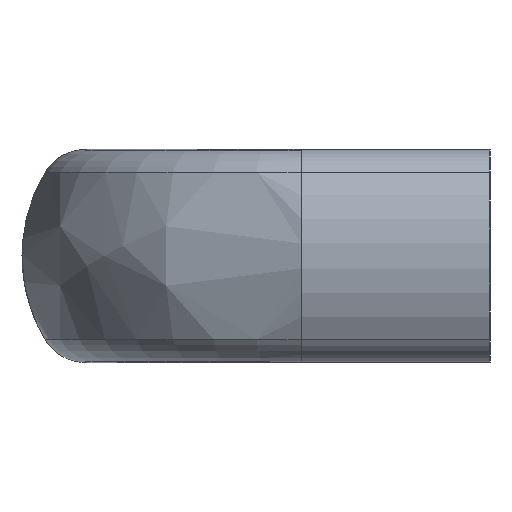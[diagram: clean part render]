
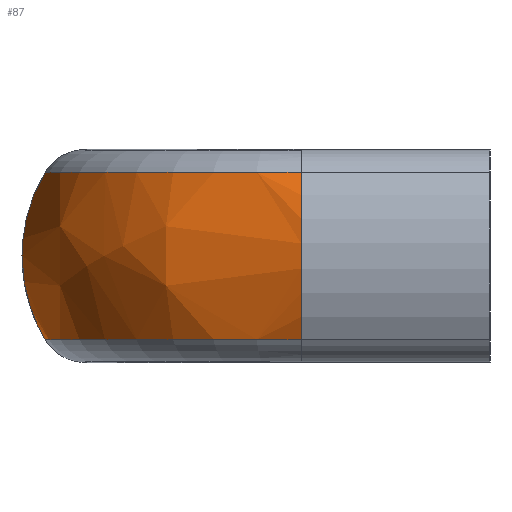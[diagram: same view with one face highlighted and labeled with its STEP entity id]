
A CAD part, left-side view. The second image highlights one B-rep face of the part: STEP entity #87.
In plain terms, the highlighted free-form (B-spline) face has degree [3, 3] with [4, 4] control points.
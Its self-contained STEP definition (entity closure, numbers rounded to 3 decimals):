
#87 = ADVANCED_FACE( '', ( #155 ), #156, .T. );
#155 = FACE_OUTER_BOUND( '', #265, .T. );
#156 = ( BOUNDED_SURFACE(  )B_SPLINE_SURFACE( 3, 3, ( ( #268, #269, #270, #271 ), ( #272, #273, #274, #275 ), ( #276, #277, #278, #279 ), ( #280, #281, #282, #283 ) ), .UNSPECIFIED., .F., .F., .F. )B_SPLINE_SURFACE_WITH_KNOTS( ( 4, 4 ), ( 4, 4 ), ( 1.571, 3.142 ), ( -0.537, 0.537 ), .UNSPECIFIED. )GEOMETRIC_REPRESENTATION_ITEM(  )RATIONAL_B_SPLINE_SURFACE( ( ( 1., 0.805, 0.805, 1. ), ( 0.906, 0.729, 0.729, 0.906 ), ( 0.906, 0.729, 0.729, 0.906 ), ( 1., 0.805, 0.805, 1. ) ) )REPRESENTATION_ITEM( '' )SURFACE(  ) );
#265 = EDGE_LOOP( '', ( #477, #478, #479, #480, #481 ) );
#268 = CARTESIAN_POINT( '', ( -124.5, 54.189, 10.177 ) );
#269 = CARTESIAN_POINT( '', ( -142.77, 54.189, 10.177 ) );
#270 = CARTESIAN_POINT( '', ( -155.689, 41.27, 10.177 ) );
#271 = CARTESIAN_POINT( '', ( -155.689, 23., 10.177 ) );
#272 = CARTESIAN_POINT( '', ( -124.5, 58.02, 3.744 ) );
#273 = CARTESIAN_POINT( '', ( -145.014, 58.02, 3.744 ) );
#274 = CARTESIAN_POINT( '', ( -159.52, 43.514, 3.744 ) );
#275 = CARTESIAN_POINT( '', ( -159.52, 23., 3.744 ) );
#276 = CARTESIAN_POINT( '', ( -124.5, 58.02, -3.744 ) );
#277 = CARTESIAN_POINT( '', ( -145.014, 58.02, -3.744 ) );
#278 = CARTESIAN_POINT( '', ( -159.52, 43.514, -3.744 ) );
#279 = CARTESIAN_POINT( '', ( -159.52, 23., -3.744 ) );
#280 = CARTESIAN_POINT( '', ( -124.5, 54.189, -10.177 ) );
#281 = CARTESIAN_POINT( '', ( -142.77, 54.189, -10.177 ) );
#282 = CARTESIAN_POINT( '', ( -155.689, 41.27, -10.177 ) );
#283 = CARTESIAN_POINT( '', ( -155.689, 23., -10.177 ) );
#477 = ORIENTED_EDGE( '', *, *, #834, .T. );
#478 = ORIENTED_EDGE( '', *, *, #835, .F. );
#479 = ORIENTED_EDGE( '', *, *, #836, .F. );
#480 = ORIENTED_EDGE( '', *, *, #806, .T. );
#481 = ORIENTED_EDGE( '', *, *, #805, .T. );
#805 = EDGE_CURVE( '', #941, #942, #943, .T. );
#806 = EDGE_CURVE( '', #944, #941, #945, .T. );
#834 = EDGE_CURVE( '', #942, #994, #996, .T. );
#835 = EDGE_CURVE( '', #997, #994, #998, .T. );
#836 = EDGE_CURVE( '', #944, #997, #999, .T. );
#941 = VERTEX_POINT( '', #1149 );
#942 = VERTEX_POINT( '', #1150 );
#943 = B_SPLINE_CURVE_WITH_KNOTS( '', 3, ( #1151, #1152, #1153, #1154, #1155, #1156 ), .UNSPECIFIED., .F., .F., ( 4, 2, 4 ), ( 0., 0.5, 1. ), .UNSPECIFIED. );
#944 = VERTEX_POINT( '', #1157 );
#945 = B_SPLINE_CURVE_WITH_KNOTS( '', 3, ( #1158, #1159, #1160, #1161, #1162, #1163 ), .UNSPECIFIED., .F., .F., ( 4, 2, 4 ), ( 0., 0.5, 1. ), .UNSPECIFIED. );
#994 = VERTEX_POINT( '', #1246 );
#996 = CIRCLE( '', #1248, 31.189 );
#997 = VERTEX_POINT( '', #1249 );
#998 = CIRCLE( '', #1250, 19.889 );
#999 = CIRCLE( '', #1251, 31.189 );
#1149 = CARTESIAN_POINT( '', ( -124.5, 56.995, 0.043 ) );
#1150 = CARTESIAN_POINT( '', ( -124.5, 54.189, -10.184 ) );
#1151 = CARTESIAN_POINT( '', ( -124.5, 56.99, 0.043 ) );
#1152 = CARTESIAN_POINT( '', ( -124.5, 56.994, -1.745 ) );
#1153 = CARTESIAN_POINT( '', ( -124.5, 56.755, -3.533 ) );
#1154 = CARTESIAN_POINT( '', ( -124.5, 55.81, -6.981 ) );
#1155 = CARTESIAN_POINT( '', ( -124.5, 55.104, -8.641 ) );
#1156 = CARTESIAN_POINT( '', ( -124.5, 54.189, -10.177 ) );
#1157 = CARTESIAN_POINT( '', ( -124.5, 54.188, 10.185 ) );
#1158 = CARTESIAN_POINT( '', ( -124.5, 54.189, 10.177 ) );
#1159 = CARTESIAN_POINT( '', ( -124.5, 55.097, 8.653 ) );
#1160 = CARTESIAN_POINT( '', ( -124.5, 55.799, 7.008 ) );
#1161 = CARTESIAN_POINT( '', ( -124.5, 56.744, 3.589 ) );
#1162 = CARTESIAN_POINT( '', ( -124.5, 56.986, 1.816 ) );
#1163 = CARTESIAN_POINT( '', ( -124.5, 56.99, 0.043 ) );
#1246 = CARTESIAN_POINT( '', ( -155.689, 23., -10.177 ) );
#1248 = AXIS2_PLACEMENT_3D( '', #1481, #1482, #1483 );
#1249 = CARTESIAN_POINT( '', ( -155.689, 23., 10.177 ) );
#1250 = AXIS2_PLACEMENT_3D( '', #1484, #1485, #1486 );
#1251 = AXIS2_PLACEMENT_3D( '', #1487, #1488, #1489 );
#1481 = CARTESIAN_POINT( '', ( -124.5, 23., -10.177 ) );
#1482 = DIRECTION( '', ( 0., 0., 1. ) );
#1483 = DIRECTION( '', ( 1., 0., 0. ) );
#1484 = CARTESIAN_POINT( '', ( -138.601, 23., 0. ) );
#1485 = DIRECTION( '', ( 0., -1., 0. ) );
#1486 = DIRECTION( '', ( 0., 0., 1. ) );
#1487 = CARTESIAN_POINT( '', ( -124.5, 23., 10.177 ) );
#1488 = DIRECTION( '', ( 0., 0., 1. ) );
#1489 = DIRECTION( '', ( 1., 0., 0. ) );
